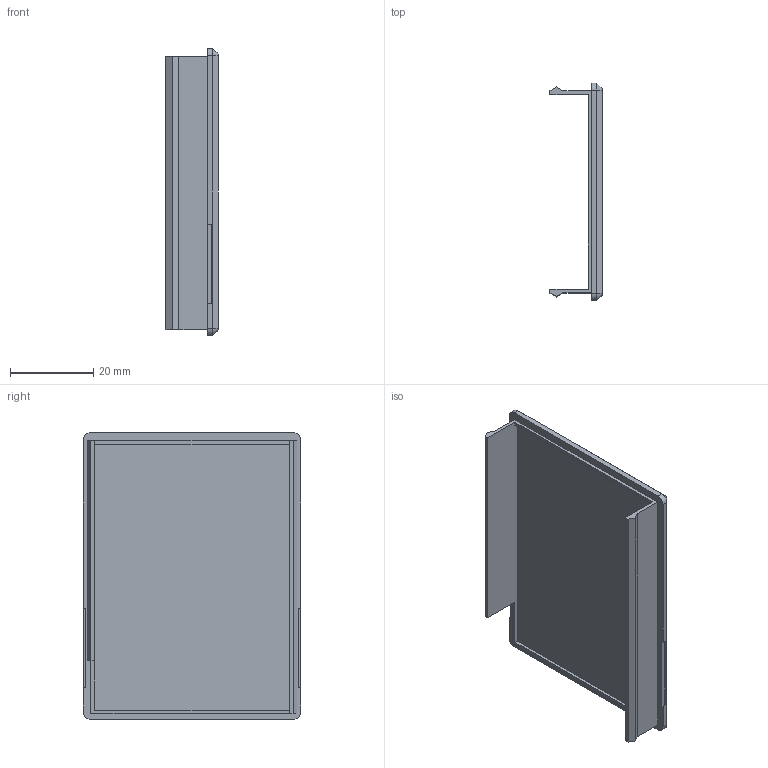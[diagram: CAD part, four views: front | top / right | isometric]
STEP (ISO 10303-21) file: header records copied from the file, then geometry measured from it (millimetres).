
FILE_DESCRIPTION (( 'STEP AP214' ), '1' );
FILE_NAME ('battery cover.STEP', '2021-06-11T04:52:05', ( '' ), ( '' ), 'SwSTEP 2.0', 'SolidWorks 2016', '' );
FILE_SCHEMA (( 'AUTOMOTIVE_DESIGN' ));
Length unit declared in the file: inch
Products named in the file (1): battery cover
Bounding box: 12.53 x 52.28 x 68.86 mm (x, y, z)
Volume: 10195.1 mm3; surface area: 10252.2 mm2
Topology: 1 solids, 1 shells, 44 faces, 115 edges, 74 vertices
Faces by surface type: plane 36, cylinder 4, cone 4
Entity records: 1367 total; most frequent: CARTESIAN_POINT 234, ORIENTED_EDGE 230, DIRECTION 217, EDGE_CURVE 115, LINE 103, VECTOR 103, VERTEX_POINT 74, AXIS2_PLACEMENT_3D 57
